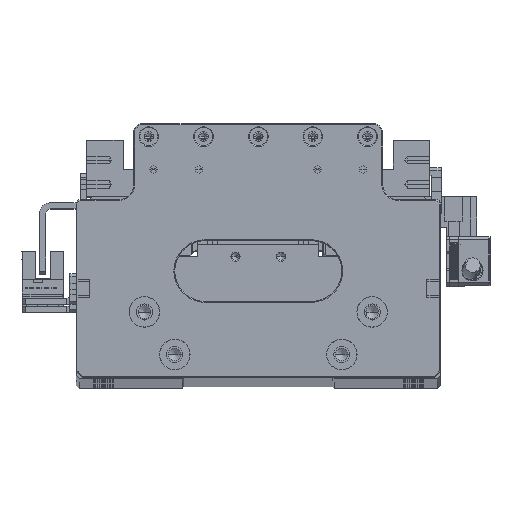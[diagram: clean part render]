
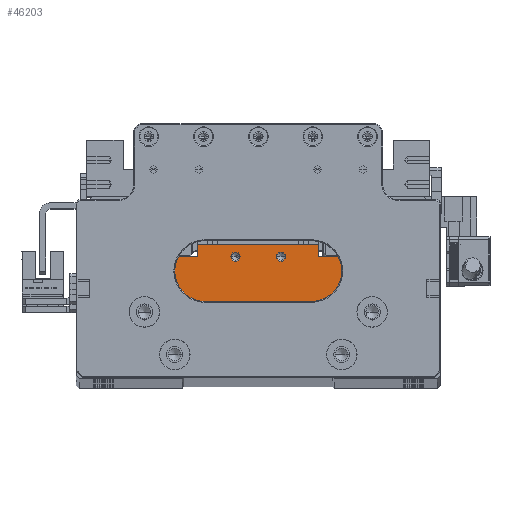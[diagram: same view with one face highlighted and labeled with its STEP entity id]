
A CAD part, top view. The second image highlights one B-rep face of the part: STEP entity #46203.
In plain terms, the highlighted planar face has unit normal (0, 0, 1).
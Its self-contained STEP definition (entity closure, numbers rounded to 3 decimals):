
#575 = VERTEX_POINT ( 'NONE', #123272 ) ;
#636 = CARTESIAN_POINT ( 'NONE',  ( 29.9, 6.5, 83.854 ) ) ;
#3140 = CARTESIAN_POINT ( 'NONE',  ( -9.025, 25.8, 83.854 ) ) ;
#7641 = ORIENTED_EDGE ( 'NONE', *, *, #62125, .T. ) ;
#10204 = EDGE_CURVE ( 'NONE', #123006, #99718, #66872, .T. ) ;
#10440 = VECTOR ( 'NONE', #77121, 1000. ) ;
#10498 = CARTESIAN_POINT ( 'NONE',  ( -7.5, 18.2, 83.854 ) ) ;
#10931 = CARTESIAN_POINT ( 'NONE',  ( -7.5, 25.8, 83.854 ) ) ;
#11753 = EDGE_LOOP ( 'NONE', ( #17074, #109488, #7641, #87818, #19021, #47049, #108627, #107492 ) ) ;
#11952 = CARTESIAN_POINT ( 'NONE',  ( -7.5, 29.7, 83.854 ) ) ;
#13297 = FACE_BOUND ( 'NONE', #69392, .T. ) ;
#13769 = VERTEX_POINT ( 'NONE', #3140 ) ;
#14025 = CARTESIAN_POINT ( 'NONE',  ( -29.9, 18.2, 83.854 ) ) ;
#14602 = VECTOR ( 'NONE', #20124, 1000. ) ;
#16235 = FACE_OUTER_BOUND ( 'NONE', #11753, .T. ) ;
#17074 = ORIENTED_EDGE ( 'NONE', *, *, #17312, .F. ) ;
#17312 = EDGE_CURVE ( 'NONE', #575, #27985, #86658, .T. ) ;
#18495 = VECTOR ( 'NONE', #116665, 1000. ) ;
#19021 = ORIENTED_EDGE ( 'NONE', *, *, #60182, .F. ) ;
#20124 = DIRECTION ( 'NONE',  ( 1., 0., 0. ) ) ;
#20530 = DIRECTION ( 'NONE',  ( 1., 0., 0. ) ) ;
#27985 = VERTEX_POINT ( 'NONE', #54631 ) ;
#29680 = PLANE ( 'NONE',  #47190 ) ;
#35901 = VECTOR ( 'NONE', #67503, 1000. ) ;
#38721 = EDGE_CURVE ( 'NONE', #80685, #99260, #92079, .T. ) ;
#39155 = CARTESIAN_POINT ( 'NONE',  ( -20., 18.2, 83.854 ) ) ;
#39311 = DIRECTION ( 'NONE',  ( 0., 0., -1. ) ) ;
#41819 = LINE ( 'NONE', #39155, #10440 ) ;
#42720 = CARTESIAN_POINT ( 'NONE',  ( -20., 29.7, 83.854 ) ) ;
#43179 = CARTESIAN_POINT ( 'NONE',  ( -7.5, 25.8, 83.854 ) ) ;
#44477 = CIRCLE ( 'NONE', #71840, 1.525 ) ;
#46203 = ADVANCED_FACE ( 'NONE', ( #16235, #13297, #86396 ), #29680, .F. ) ;
#46869 = LINE ( 'NONE', #11952, #18495 ) ;
#47049 = ORIENTED_EDGE ( 'NONE', *, *, #85152, .F. ) ;
#47190 = AXIS2_PLACEMENT_3D ( 'NONE', #10498, #39311, #106052 ) ;
#48333 = EDGE_CURVE ( 'NONE', #86804, #78362, #46869, .T. ) ;
#49213 = CARTESIAN_POINT ( 'NONE',  ( 7.5, 25.8, 83.854 ) ) ;
#52814 = DIRECTION ( 'NONE',  ( 1., 0., 0. ) ) ;
#54631 = CARTESIAN_POINT ( 'NONE',  ( -20., 25.7, 83.854 ) ) ;
#55108 = DIRECTION ( 'NONE',  ( 1., 0., 0. ) ) ;
#55325 = DIRECTION ( 'NONE',  ( 0., 0., 1. ) ) ;
#56979 = CARTESIAN_POINT ( 'NONE',  ( 5.975, 25.8, 83.854 ) ) ;
#57934 = CARTESIAN_POINT ( 'NONE',  ( -7.5, 25.7, 83.854 ) ) ;
#58796 = DIRECTION ( 'NONE',  ( 1., 0., 0. ) ) ;
#59056 = VECTOR ( 'NONE', #55108, 1000. ) ;
#60182 = EDGE_CURVE ( 'NONE', #123100, #123006, #90711, .T. ) ;
#60975 = CARTESIAN_POINT ( 'NONE',  ( 20., 25.7, 83.854 ) ) ;
#61197 = CIRCLE ( 'NONE', #75740, 1.525 ) ;
#61601 = CARTESIAN_POINT ( 'NONE',  ( 20., 18.2, 83.854 ) ) ;
#62125 = EDGE_CURVE ( 'NONE', #107881, #99718, #84388, .T. ) ;
#62448 = CIRCLE ( 'NONE', #87007, 1.525 ) ;
#64021 = VERTEX_POINT ( 'NONE', #78057 ) ;
#66872 = LINE ( 'NONE', #110308, #114665 ) ;
#66897 = EDGE_CURVE ( 'NONE', #99260, #80685, #62448, .T. ) ;
#67177 = EDGE_CURVE ( 'NONE', #13769, #64021, #44477, .T. ) ;
#67503 = DIRECTION ( 'NONE',  ( 1., 0., 0. ) ) ;
#69077 = LINE ( 'NONE', #14025, #116863 ) ;
#69392 = EDGE_LOOP ( 'NONE', ( #76701, #80473 ) ) ;
#71175 = DIRECTION ( 'NONE',  ( 0., -1., 0. ) ) ;
#71840 = AXIS2_PLACEMENT_3D ( 'NONE', #43179, #109949, #52814 ) ;
#72049 = LINE ( 'NONE', #61601, #94414 ) ;
#73238 = ORIENTED_EDGE ( 'NONE', *, *, #87227, .F. ) ;
#74694 = CARTESIAN_POINT ( 'NONE',  ( -7.5, 6.5, 83.854 ) ) ;
#75412 = CARTESIAN_POINT ( 'NONE',  ( 20., 29.7, 83.854 ) ) ;
#75740 = AXIS2_PLACEMENT_3D ( 'NONE', #10931, #77671, #20530 ) ;
#76701 = ORIENTED_EDGE ( 'NONE', *, *, #66897, .F. ) ;
#77121 = DIRECTION ( 'NONE',  ( 0., 1., 0. ) ) ;
#77671 = DIRECTION ( 'NONE',  ( 0., 0., 1. ) ) ;
#78057 = CARTESIAN_POINT ( 'NONE',  ( -5.975, 25.8, 83.854 ) ) ;
#78362 = VERTEX_POINT ( 'NONE', #75412 ) ;
#80473 = ORIENTED_EDGE ( 'NONE', *, *, #38721, .F. ) ;
#80685 = VERTEX_POINT ( 'NONE', #56979 ) ;
#81535 = DIRECTION ( 'NONE',  ( 0., -1., 0. ) ) ;
#84388 = LINE ( 'NONE', #74694, #59056 ) ;
#85152 = EDGE_CURVE ( 'NONE', #78362, #123100, #72049, .T. ) ;
#85181 = EDGE_CURVE ( 'NONE', #107881, #575, #69077, .T. ) ;
#86396 = FACE_BOUND ( 'NONE', #108294, .T. ) ;
#86658 = LINE ( 'NONE', #57934, #35901 ) ;
#86804 = VERTEX_POINT ( 'NONE', #42720 ) ;
#87007 = AXIS2_PLACEMENT_3D ( 'NONE', #112464, #55325, #122067 ) ;
#87227 = EDGE_CURVE ( 'NONE', #64021, #13769, #61197, .T. ) ;
#87818 = ORIENTED_EDGE ( 'NONE', *, *, #10204, .F. ) ;
#89217 = CARTESIAN_POINT ( 'NONE',  ( -29.9, 6.5, 83.854 ) ) ;
#90337 = DIRECTION ( 'NONE',  ( 0., 1., 0. ) ) ;
#90711 = LINE ( 'NONE', #96427, #14602 ) ;
#92079 = CIRCLE ( 'NONE', #97757, 1.525 ) ;
#94414 = VECTOR ( 'NONE', #71175, 1000. ) ;
#96427 = CARTESIAN_POINT ( 'NONE',  ( -7.5, 25.7, 83.854 ) ) ;
#96848 = CARTESIAN_POINT ( 'NONE',  ( 29.9, 25.7, 83.854 ) ) ;
#97757 = AXIS2_PLACEMENT_3D ( 'NONE', #49213, #115954, #58796 ) ;
#99260 = VERTEX_POINT ( 'NONE', #121581 ) ;
#99718 = VERTEX_POINT ( 'NONE', #636 ) ;
#103407 = ORIENTED_EDGE ( 'NONE', *, *, #67177, .F. ) ;
#106052 = DIRECTION ( 'NONE',  ( -1., 0., 0. ) ) ;
#107492 = ORIENTED_EDGE ( 'NONE', *, *, #112043, .F. ) ;
#107881 = VERTEX_POINT ( 'NONE', #89217 ) ;
#108294 = EDGE_LOOP ( 'NONE', ( #73238, #103407 ) ) ;
#108627 = ORIENTED_EDGE ( 'NONE', *, *, #48333, .F. ) ;
#109488 = ORIENTED_EDGE ( 'NONE', *, *, #85181, .F. ) ;
#109949 = DIRECTION ( 'NONE',  ( 0., 0., 1. ) ) ;
#110308 = CARTESIAN_POINT ( 'NONE',  ( 29.9, 18.2, 83.854 ) ) ;
#112043 = EDGE_CURVE ( 'NONE', #27985, #86804, #41819, .T. ) ;
#112464 = CARTESIAN_POINT ( 'NONE',  ( 7.5, 25.8, 83.854 ) ) ;
#114665 = VECTOR ( 'NONE', #81535, 1000. ) ;
#115954 = DIRECTION ( 'NONE',  ( 0., 0., 1. ) ) ;
#116665 = DIRECTION ( 'NONE',  ( 1., 0., 0. ) ) ;
#116863 = VECTOR ( 'NONE', #90337, 1000. ) ;
#121581 = CARTESIAN_POINT ( 'NONE',  ( 9.025, 25.8, 83.854 ) ) ;
#122067 = DIRECTION ( 'NONE',  ( 1., 0., 0. ) ) ;
#123006 = VERTEX_POINT ( 'NONE', #96848 ) ;
#123100 = VERTEX_POINT ( 'NONE', #60975 ) ;
#123272 = CARTESIAN_POINT ( 'NONE',  ( -29.9, 25.7, 83.854 ) ) ;
